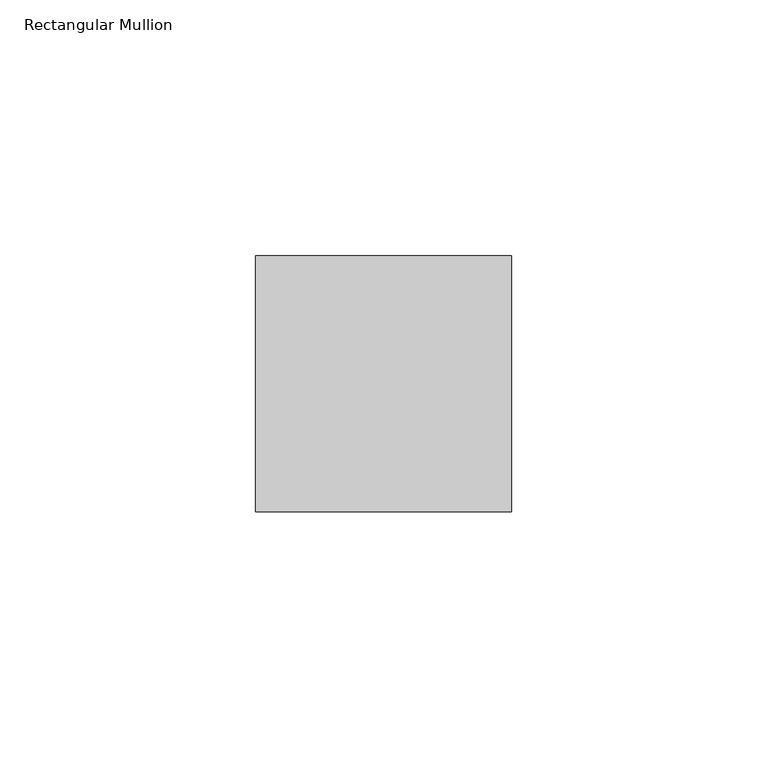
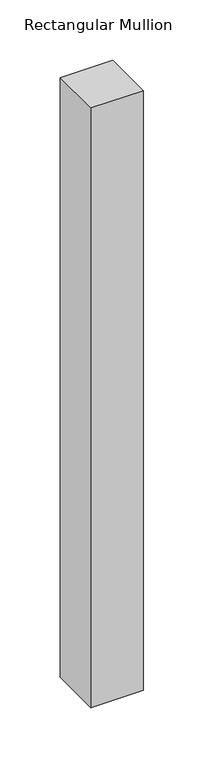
"""IFC4 building model written with IfcOpenShell, lengths in millimetres: member geometry, Rectangular Mullion : RSen_21_CWM_support profile 50x50 - right_gen_duco projects."""

from ifc_helpers import new_model, si_unit, frame, origin, place, context, project, spatial, polyline, outline, extrude, source, transform, mapped, element, save


def rectangular_mullion_6e5ba28d(model_context):
    return source(origin(), model_context, "Body", "SweptSolid", [
        extrude(outline(polyline([(-50.0, 1.0), (0.0, 1.0), (0.0, -49.0), (-50.0, -49.0), (-50.0, 1.0)])), frame((0.0, 0.0, -605.0), z_axis=(0.0, 0.0, 1.0), x_axis=(1.0, 0.0, 0.0)), (0.0, 0.0, 1.0), 605.0),
    ])


if __name__ == "__main__":
    model = new_model("IFC4")
    model_context = context("Model", 3, world=origin())
    ifc_project = project(units=[si_unit("LENGTHUNIT", "METRE", prefix="MILLI")], contexts=[model_context])
    site = spatial("IfcSite", under=ifc_project)
    building = spatial("IfcBuilding", under=site)
    placement = place(None, origin())
    rectangular_mullion_shape = rectangular_mullion_6e5ba28d(model_context)
    element("IfcMember", 1, ObjectType="Rectangular Mullion : RSen_21_CWM_support profile 50x50 - right_gen_duco projects", at=placement, inside=building, context=model_context, shape_type="MappedRepresentation", body=[
        mapped(rectangular_mullion_shape, transform((0.0, 0.0, 0.0), x_axis=(1.0, 0.0, 0.0), y_axis=(0.0, 1.0, 0.0), z_axis=(0.0, 0.0, 1.0))),
    ])
    save(model, "model.ifc")
